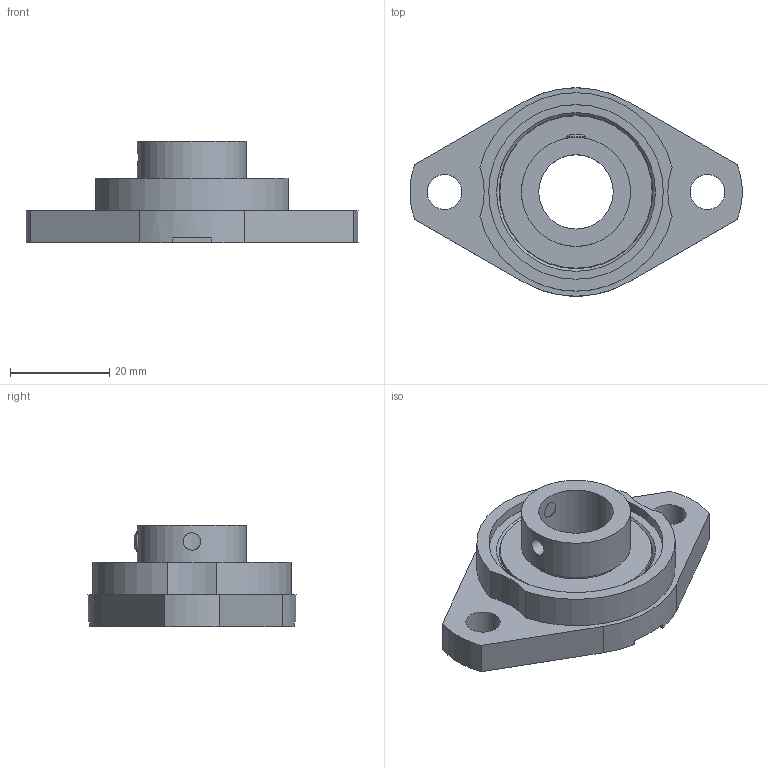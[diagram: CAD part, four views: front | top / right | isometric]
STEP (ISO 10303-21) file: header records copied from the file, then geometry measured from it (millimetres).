
FILE_DESCRIPTION((''),'2;1');
FILE_NAME('\\Ts-tgl068\j-cad-d-base\00.3DCADデータ作成フォルダ\11.エコシリーズ\MUSFL000\MUSFL002.stp','2014-11-12T09:41:29',('btec_1106_2'),(''),'Autodesk Inventor 2012','Autodesk Inventor 2012','');
FILE_SCHEMA(('AUTOMOTIVE_DESIGN { 1 0 10303 214 1 1 1 1 }'));
Length unit declared in the file: millimetre
Products named in the file (3): MUSFL000; SFL002; U002
Assembly tree (2 placements, depth 2):
  MUSFL000
    SFL002
    U002
Bounding box: 66.92 x 42 x 20.5 mm (x, y, z)
Volume: 15860.3 mm3; surface area: 9411.4 mm2
Topology: 2 solids, 2 shells, 74 faces, 188 edges, 123 vertices
Faces by surface type: plane 39, cylinder 30, cone 3, sphere 2
Full cylindrical faces by diameter (mm): 3.5 x1, 4 x1, 7 x2, 15 x1, 20.1 x1, 22 x1, 35.2 x1
Entity records: 2338 total; most frequent: CARTESIAN_POINT 497, DIRECTION 386, ORIENTED_EDGE 334, EDGE_CURVE 167, AXIS2_PLACEMENT_3D 146, VERTEX_POINT 117, EDGE_LOOP 104, VECTOR 94
